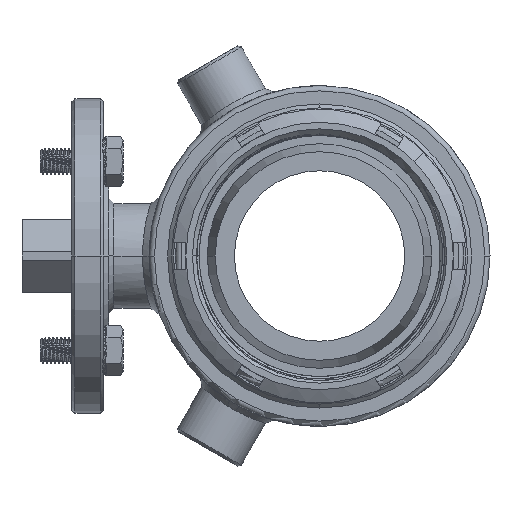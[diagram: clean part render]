
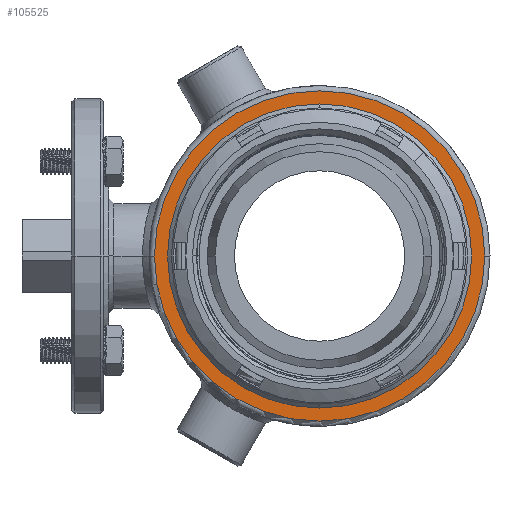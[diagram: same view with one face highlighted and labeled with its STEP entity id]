
A CAD part, left-side view. The second image highlights one B-rep face of the part: STEP entity #105525.
In plain terms, the highlighted planar face has unit normal (-1, 0, 0).
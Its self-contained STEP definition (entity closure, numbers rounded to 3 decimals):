
#66=CARTESIAN_POINT('',(-38.,0.,0.));
#67=DIRECTION('',(-1.,0.,0.));
#68=DIRECTION('',(0.,-1.,0.));
#69=AXIS2_PLACEMENT_3D('',#66,#67,#68);
#71=CARTESIAN_POINT('',(-38.,0.,0.));
#72=DIRECTION('',(-1.,0.,0.));
#73=DIRECTION('',(0.,1.,0.));
#74=AXIS2_PLACEMENT_3D('',#71,#72,#73);
#76=CARTESIAN_POINT('',(-38.,0.,0.));
#77=DIRECTION('',(1.,0.,0.));
#78=DIRECTION('',(0.,0.,-1.));
#79=AXIS2_PLACEMENT_3D('',#76,#77,#78);
#81=CARTESIAN_POINT('',(-38.,0.,0.));
#82=DIRECTION('',(1.,0.,0.));
#83=DIRECTION('',(0.,0.,1.));
#84=AXIS2_PLACEMENT_3D('',#81,#82,#83);
#100670=CARTESIAN_POINT('',(-38.,-63.,0.));
#100671=CARTESIAN_POINT('',(-38.,63.,0.));
#100672=VERTEX_POINT('',#100670);
#100673=VERTEX_POINT('',#100671);
#101088=CARTESIAN_POINT('',(-38.,0.,-58.));
#101089=CARTESIAN_POINT('',(-38.,0.,58.));
#101090=VERTEX_POINT('',#101088);
#101091=VERTEX_POINT('',#101089);
#105510=CARTESIAN_POINT('',(-38.,0.,0.));
#105511=DIRECTION('',(-1.,0.,0.));
#105512=DIRECTION('',(0.,1.,0.));
#105513=AXIS2_PLACEMENT_3D('',#105510,#105511,#105512);
#105514=PLANE('',#105513);
#105516=ORIENTED_EDGE('',*,*,#105515,.F.);
#105518=ORIENTED_EDGE('',*,*,#105517,.F.);
#105519=EDGE_LOOP('',(#105516,#105518));
#105520=FACE_OUTER_BOUND('',#105519,.F.);
#105521=ORIENTED_EDGE('',*,*,#105477,.F.);
#105522=ORIENTED_EDGE('',*,*,#105492,.F.);
#105523=EDGE_LOOP('',(#105521,#105522));
#105524=FACE_BOUND('',#105523,.F.);
#105525=ADVANCED_FACE('',(#105520,#105524),#105514,.T.);
#70=CIRCLE('',#69,63.);
#75=CIRCLE('',#74,63.);
#80=CIRCLE('',#79,58.);
#85=CIRCLE('',#84,58.);
#105477=EDGE_CURVE('',#101090,#101091,#80,.T.);
#105492=EDGE_CURVE('',#101091,#101090,#85,.T.);
#105515=EDGE_CURVE('',#100672,#100673,#70,.T.);
#105517=EDGE_CURVE('',#100673,#100672,#75,.T.);
